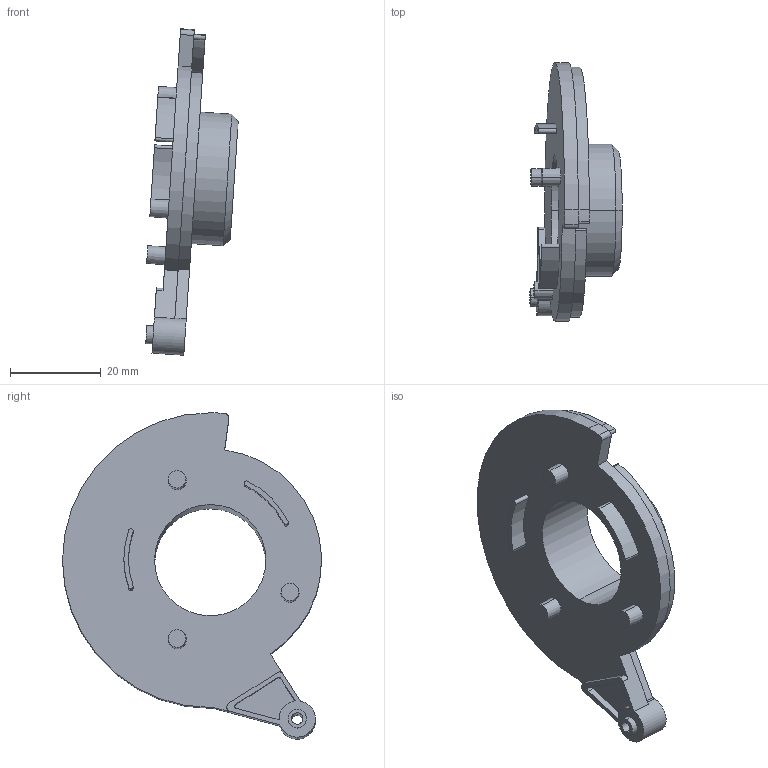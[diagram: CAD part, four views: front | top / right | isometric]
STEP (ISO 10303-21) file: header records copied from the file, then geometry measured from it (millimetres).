
FILE_DESCRIPTION (( 'STEP AP203' ), '1' );
FILE_NAME ('Palier d''équilibrage_2_Défaut_sldprt.STEP', '2018-04-06T14:28:49', ( '' ), ( '' ), 'SwSTEP 2.0', 'SolidWorks 2013', '' );
FILE_SCHEMA (( 'CONFIG_CONTROL_DESIGN' ));
Length unit declared in the file: millimetre
Products named in the file (1): Palier d''équilibrage_2_Défaut_sldprt
Bounding box: 20.33 x 56.98 x 71.83 mm (x, y, z)
Volume: 10251.3 mm3; surface area: 9254.7 mm2
Topology: 1 solids, 1 shells, 92 faces, 235 edges, 156 vertices
Faces by surface type: cylinder 48, plane 36, cone 8
Entity records: 2920 total; most frequent: DIRECTION 533, CARTESIAN_POINT 484, ORIENTED_EDGE 470, EDGE_CURVE 235, AXIS2_PLACEMENT_3D 205, VERTEX_POINT 156, VECTOR 123, LINE 123
